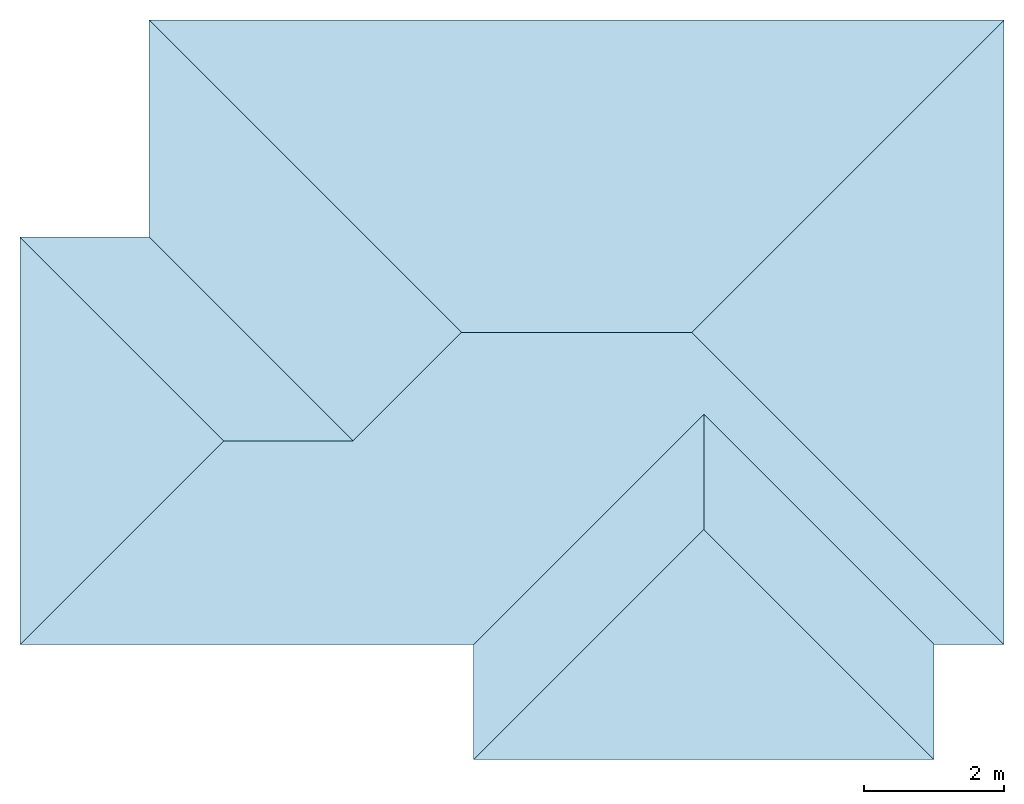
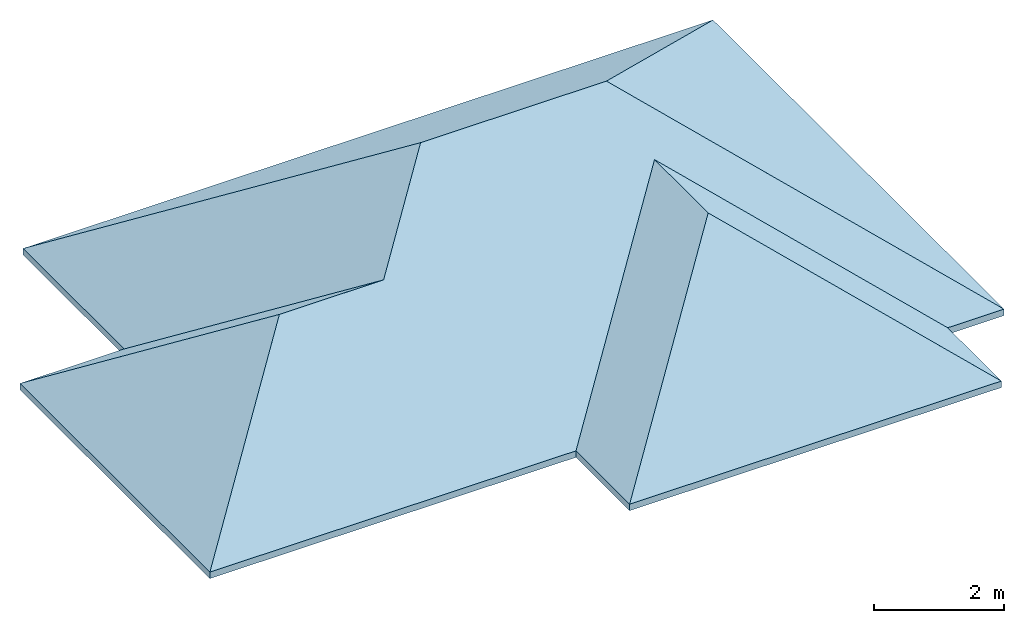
# One storey: 9 slabs, 1 element without a shape of its own.
"""IFC2X3 building model written with IfcOpenShell, lengths in centimetres."""

import ifcopenshell
import ifcopenshell.guid

model = None  # the IFC model being written
_history = None  # IfcOwnerHistory: only IFC2X3 demands one
_inside = {}  # id of a spatial element -> (the spatial element, [elements in it])
_under = {}  # id of a project, library or spatial element -> (it, [spatial elements below it])
_declared = {}  # id of a project -> (the project, [libraries it declares])
_typed = {}  # id of a type object -> (the type object, [elements of that type])
_made_of = {}  # id of a material, layer set ... -> (it, [elements and type objects made of it])


def new_model(schema):
    """Start an empty IFC model of exactly this schema.

    Asked for "IFC4X3", IfcOpenShell would pick the latest addendum, in which some entities
    have other attributes; the version numbers below select the first issue.
    IFC2X3 requires an IfcOwnerHistory on every rooted entity: one is made here for all.
    """
    global model, _history
    if schema == "IFC4X3":
        model = ifcopenshell.file(schema_version=(4, 3, 0, 0))
    else:
        model = ifcopenshell.file(schema=schema)
    _inside.clear()
    _under.clear()
    _declared.clear()
    _typed.clear()
    _made_of.clear()
    _history = None
    if model.schema == "IFC2X3":
        org = make("IfcOrganization", Name="unknown")
        user = make(
            "IfcPersonAndOrganization",
            ThePerson=make("IfcPerson", FamilyName="unknown"),
            TheOrganization=org,
        )
        app = make(
            "IfcApplication",
            ApplicationDeveloper=org,
            Version="unknown",
            ApplicationFullName="unknown",
            ApplicationIdentifier="unknown",
        )
        _history = make(
            "IfcOwnerHistory",
            OwningUser=user,
            OwningApplication=app,
            ChangeAction="ADDED",
            CreationDate=0,
        )
    return model


def make(cls, **values):
    """One entity of the class cls with the attributes given. An attribute that is None is left unset."""
    return model.create_entity(
        cls, **{name: value for name, value in values.items() if value is not None}
    )


def entity(cls, *values):
    """Any entity or typed value of the class cls, its attributes in the order of the schema. None: left unset."""
    e = model.create_entity(cls)
    for i, value in enumerate(values):
        if value is not None:
            e[i] = value
    return e


def rooted(cls, **values):
    """An entity with a GlobalId (a new one), such as an element, a storey or a relation."""
    return make(cls, GlobalId=ifcopenshell.guid.new(), OwnerHistory=_history, **values)


def si_unit(unit_type, name, prefix=None):
    """IfcSIUnit, for example si_unit("LENGTHUNIT", "METRE", prefix="MILLI")."""
    return make("IfcSIUnit", UnitType=unit_type, Prefix=prefix, Name=name)


def converted_unit(unit_type, name, factor, base, dimensions=None, offset=None):
    """IfcConversionBasedUnit, such as the inch: factor (a typed value) times the base unit."""
    return make(
        "IfcConversionBasedUnit"
        if offset is None
        else "IfcConversionBasedUnitWithOffset",
        ConversionOffset=offset,
        Dimensions=None
        if dimensions is None
        else entity("IfcDimensionalExponents", *dimensions),
        UnitType=unit_type,
        Name=name,
        ConversionFactor=make(
            "IfcMeasureWithUnit", ValueComponent=factor, UnitComponent=base
        ),
    )


def derived_unit(unit_type, elements):
    """IfcDerivedUnit: a product of units, each with its exponent."""
    return make(
        "IfcDerivedUnit",
        Elements=[
            make("IfcDerivedUnitElement", Unit=unit, Exponent=power)
            for unit, power in elements
        ],
        UnitType=unit_type,
    )


def assignment(units):
    """IfcUnitAssignment: the units of a project."""
    return None if units is None else make("IfcUnitAssignment", Units=units)


def point(xyz):
    """IfcCartesianPoint."""
    return None if xyz is None else make("IfcCartesianPoint", Coordinates=xyz)


def direction(xyz):
    """IfcDirection."""
    return None if xyz is None else make("IfcDirection", DirectionRatios=xyz)


def frame(location, z_axis=None, x_axis=None):
    """IfcAxis2Placement3D, a coordinate frame: its origin and axes. An axis left out is left unset."""
    return make(
        "IfcAxis2Placement3D",
        Location=point(location),
        Axis=direction(z_axis),
        RefDirection=direction(x_axis),
    )


def origin():
    """The frame at (0, 0, 0) with its axes left unset."""
    return frame((0.0, 0.0, 0.0))


def place(relative_to, where):
    """IfcLocalPlacement: puts the frame where relative to a parent placement (None: the world)."""
    return make(
        "IfcLocalPlacement", PlacementRelTo=relative_to, RelativePlacement=where
    )


def context(
    kind, dimensions, precision=None, world=None, true_north=None, identifier=None
):
    """IfcGeometricRepresentationContext, for example the 3D "Model" context."""
    return make(
        "IfcGeometricRepresentationContext",
        ContextIdentifier=identifier,
        ContextType=kind,
        CoordinateSpaceDimension=dimensions,
        Precision=precision,
        WorldCoordinateSystem=world,
        TrueNorth=true_north,
    )


def subcontext(parent, identifier, kind, view, scale=None):
    """IfcGeometricRepresentationSubContext, for example "Body" below "Model"."""
    return make(
        "IfcGeometricRepresentationSubContext",
        ContextIdentifier=identifier,
        ContextType=kind,
        ParentContext=parent,
        TargetScale=scale,
        TargetView=view,
    )


def project(units=None, contexts=None):
    """IfcProject with its units and contexts."""
    return rooted(
        "IfcProject",
        Name="project",
        RepresentationContexts=contexts,
        UnitsInContext=assignment(units),
    )


def spatial(cls, under=None, at=None, **own):
    """A site, building, storey or space (cls), placed at a placement, below another one or the project."""
    s = rooted(cls, ObjectPlacement=at, **own)
    if under is not None:
        _under.setdefault(under.id(), (under, []))[1].append(s)
    return s


def polyline(points):
    """IfcPolyline through the points."""
    return make("IfcPolyline", Points=[point(p) for p in points])


def outline(outer, holes=None, kind="AREA"):
    """IfcArbitraryClosedProfileDef: a profile drawn as a closed curve; with holes, ...WithVoids."""
    if holes is None:
        return make("IfcArbitraryClosedProfileDef", ProfileType=kind, OuterCurve=outer)
    return make(
        "IfcArbitraryProfileDefWithVoids",
        ProfileType=kind,
        OuterCurve=outer,
        InnerCurves=holes,
    )


def extrude(swept, where, along, depth):
    """IfcExtrudedAreaSolid: the profile swept, set in the frame where, extruded along a direction by depth."""
    return make(
        "IfcExtrudedAreaSolid",
        SweptArea=swept,
        Position=where,
        ExtrudedDirection=direction(along),
        Depth=depth,
    )


def shape(context_of_items, identifier, shape_type, items):
    """IfcShapeRepresentation: the items that make up one representation, for example the "Body"."""
    return make(
        "IfcShapeRepresentation",
        ContextOfItems=context_of_items,
        RepresentationIdentifier=identifier,
        RepresentationType=shape_type,
        Items=items,
    )


def material(Name=None, Category=None):
    """IfcMaterial."""
    return make("IfcMaterial", Name=Name, Category=Category)


def layer(
    of_material, thickness, ventilated=None, Name=None, Category=None, Priority=None
):
    """IfcMaterialLayer: one layer of a wall or slab, of a material (None: an air gap)."""
    return make(
        "IfcMaterialLayer",
        Material=of_material,
        LayerThickness=thickness,
        IsVentilated=ventilated,
        Name=Name,
        Category=Category,
        Priority=Priority,
    )


def layer_set(layers, Name=None):
    """IfcMaterialLayerSet."""
    return make("IfcMaterialLayerSet", MaterialLayers=layers, LayerSetName=Name)


def made_of(thing, what):
    """Note that an element or type object is made of a material, layer set ...; save() writes the relation."""
    if what is not None:
        _made_of.setdefault(what.id(), (what, []))[1].append(thing)
    return thing


def type_object(cls, material=None, **own):
    """A type object (cls), such as IfcWallType, which elements share."""
    return made_of(rooted(cls, **own), material)


def element(
    cls,
    number,
    at=None,
    inside=None,
    cuts=None,
    type_object=None,
    material=None,
    context=None,
    identifier="Body",
    shape_type=None,
    held_by="IfcProductDefinitionShape",
    body=None,
    shapes=None,
    **own,
):
    """One element of the class cls, such as IfcWall. Its Tag is "e" and its number.

    at: its placement. inside: the storey or other place that contains it. cuts: it is an
    opening in that element (IfcRelVoidsElement). A single representation is given by context,
    identifier, shape_type and body (its items); several are given by shapes. held_by: the class
    of the entity that holds the representations. save() writes the other relations.
    """
    e = rooted(cls, Tag="e%d" % number, ObjectPlacement=at, **own)
    if body is not None:
        shapes = [shape(context, identifier, shape_type, body)]
    if shapes is not None:
        e.Representation = make(held_by, Representations=shapes)
    if inside is not None:
        _inside.setdefault(inside.id(), (inside, []))[1].append(e)
    if cuts is not None:
        rooted(
            "IfcRelVoidsElement", RelatingBuildingElement=cuts, RelatedOpeningElement=e
        )
    if type_object is not None:
        _typed.setdefault(type_object.id(), (type_object, []))[1].append(e)
    return made_of(e, material)


def aggregate(whole, parts):
    """IfcRelAggregates: a whole, such as a stair, and the parts it consists of."""
    return rooted("IfcRelAggregates", RelatingObject=whole, RelatedObjects=parts)


def save(model, path):
    """Write the relations noted so far, then the file.

    IfcRelAggregates (storeys below a building ...), IfcRelContainedInSpatialStructure (elements
    in a storey), IfcRelDefinesByType, IfcRelAssociatesMaterial and IfcRelDeclares: one each for
    every whole, place, type object, material and project.
    """
    for whole, parts in _under.values():
        aggregate(whole, parts)
    for where, things in _inside.values():
        rooted(
            "IfcRelContainedInSpatialStructure",
            RelatedElements=things,
            RelatingStructure=where,
        )
    for kind, things in _typed.values():
        rooted("IfcRelDefinesByType", RelatedObjects=things, RelatingType=kind)
    for what, things in _made_of.values():
        rooted("IfcRelAssociatesMaterial", RelatedObjects=things, RelatingMaterial=what)
    for by, libraries in _declared.values():
        rooted("IfcRelDeclares", RelatingContext=by, RelatedDefinitions=libraries)
    model.write(path)


model = new_model("IFC2X3")

# Units and contexts
model_context = context("Model", 3, precision=0.001, world=origin(), true_north=direction((6.123031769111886e-17, 1.0)))
body_context = subcontext(model_context, "Body", "Model", "MODEL_VIEW")
ifc_project = project(units=[si_unit("LENGTHUNIT", "METRE", prefix="CENTI"), si_unit("AREAUNIT", "SQUARE_METRE"), si_unit("VOLUMEUNIT", "CUBIC_METRE"), converted_unit("PLANEANGLEUNIT", "DEGREE", entity("IfcRatioMeasure", 0.017453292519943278), si_unit("PLANEANGLEUNIT", "RADIAN"), dimensions=[0, 0, 0, 0, 0, 0, 0]), si_unit("MASSUNIT", "GRAM", prefix="KILO"), derived_unit("MASSDENSITYUNIT", [(si_unit("MASSUNIT", "GRAM", prefix="KILO"), 1), (si_unit("LENGTHUNIT", "METRE"), -3)]), derived_unit("MOMENTOFINERTIAUNIT", [(si_unit("LENGTHUNIT", "METRE"), 4)]), si_unit("TIMEUNIT", "SECOND"), si_unit("FREQUENCYUNIT", "HERTZ"), si_unit("THERMODYNAMICTEMPERATUREUNIT", "DEGREE_CELSIUS"), derived_unit("THERMALTRANSMITTANCEUNIT", [(si_unit("MASSUNIT", "GRAM", prefix="KILO"), 1), (si_unit("THERMODYNAMICTEMPERATUREUNIT", "KELVIN"), -1), (si_unit("TIMEUNIT", "SECOND"), -3)]), derived_unit("VOLUMETRICFLOWRATEUNIT", [(si_unit("LENGTHUNIT", "METRE"), 3), (si_unit("TIMEUNIT", "SECOND"), -1)]), derived_unit("MASSFLOWRATEUNIT", [(si_unit("MASSUNIT", "GRAM", prefix="KILO"), 1), (si_unit("TIMEUNIT", "SECOND"), -1)]), derived_unit("ROTATIONALFREQUENCYUNIT", [(si_unit("TIMEUNIT", "SECOND"), -1)]), si_unit("ELECTRICCURRENTUNIT", "AMPERE"), si_unit("ELECTRICVOLTAGEUNIT", "VOLT"), si_unit("POWERUNIT", "WATT"), si_unit("FORCEUNIT", "NEWTON", prefix="KILO"), si_unit("ILLUMINANCEUNIT", "LUX"), si_unit("LUMINOUSFLUXUNIT", "LUMEN"), si_unit("LUMINOUSINTENSITYUNIT", "CANDELA"), derived_unit("USERDEFINED", [(si_unit("MASSUNIT", "GRAM", prefix="KILO"), -1), (si_unit("LENGTHUNIT", "METRE"), -2), (si_unit("TIMEUNIT", "SECOND"), 3), (si_unit("LUMINOUSFLUXUNIT", "LUMEN"), 1)]), derived_unit("SOUNDPOWERUNIT", [(si_unit("MASSUNIT", "GRAM", prefix="KILO"), 1), (si_unit("LENGTHUNIT", "METRE"), 2), (si_unit("TIMEUNIT", "SECOND"), -3)]), derived_unit("SOUNDPRESSUREUNIT", [(si_unit("MASSUNIT", "GRAM", prefix="KILO"), 1), (si_unit("LENGTHUNIT", "METRE"), -1), (si_unit("TIMEUNIT", "SECOND"), -2)]), derived_unit("LINEARVELOCITYUNIT", [(si_unit("LENGTHUNIT", "METRE"), 1), (si_unit("TIMEUNIT", "SECOND"), -1)]), si_unit("PRESSUREUNIT", "PASCAL"), derived_unit("USERDEFINED", [(si_unit("LENGTHUNIT", "METRE"), -2), (si_unit("MASSUNIT", "GRAM", prefix="KILO"), 1), (si_unit("TIMEUNIT", "SECOND"), -2)]), derived_unit("LINEARFORCEUNIT", [(si_unit("MASSUNIT", "GRAM", prefix="KILO"), 1), (si_unit("LENGTHUNIT", "METRE"), 1), (si_unit("TIMEUNIT", "SECOND"), -2), (si_unit("LENGTHUNIT", "METRE"), -1)]), derived_unit("PLANARFORCEUNIT", [(si_unit("MASSUNIT", "GRAM", prefix="KILO"), 1), (si_unit("LENGTHUNIT", "METRE"), 1), (si_unit("TIMEUNIT", "SECOND"), -2), (si_unit("LENGTHUNIT", "METRE"), -2)])], contexts=[model_context])

# Site, building, storey
site_placement = place(None, origin())
site = spatial("IfcSite", under=ifc_project, at=site_placement, Name="Default", CompositionType="ELEMENT")
building_placement = place(site_placement, origin())
building = spatial("IfcBuilding", under=site, at=building_placement, CompositionType="ELEMENT")
storey_placement = place(building_placement, frame((0.0, 0.0, 270.0)))
storey = spatial("IfcBuildingStorey", under=building, at=storey_placement, Name="x_Arase", CompositionType="ELEMENT", Elevation=270.0)

# Roof, slabs
ifc_material = material(Name="Ardoise")
ifc_layer = layer(ifc_material, 10.0)
ifc_layer_set = layer_set([ifc_layer], Name="Toit de base:Toit ardoise - 100 mm")
roof_placement = place(storey_placement, frame((-1653.8253630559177, -126.39570391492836, 0.0)))
roof = element("IfcRoof", 1, at=roof_placement, inside=storey, material=ifc_layer_set, Name="Toit de base:Toit ardoise - 100 mm", ObjectType="Toit de base:Toit ardoise - 100 mm", ShapeType="NOTDEFINED")
slab_type_1 = type_object("IfcSlabType", Name="Toit de base:Toit ardoise - 100 mm", PredefinedType="ROOF")
slab_1_placement = place(roof_placement, origin())
slab_1 = element("IfcSlab", 2, at=slab_1_placement, type_object=slab_type_1, material=ifc_layer_set, Name="Toit de base:Toit ardoise - 100 mm", ObjectType="Toit de base:Toit ardoise - 100 mm", PredefinedType="ROOF", context=body_context, shape_type="SweptSolid", body=[
    extrude(outline(polyline([(612.5000000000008, 273.1483142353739), (-612.4999999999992, 273.1483142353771), (-165.0, -273.1483142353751), (165.0, -273.1483142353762), (612.5000000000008, 273.1483142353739)])), frame((797.5000000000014, 836.2500000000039, 156.67143667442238), z_axis=(0.0, 0.5735764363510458, 0.819152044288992), x_axis=(1.0, 0.0, 0.0)), (0.0, -0.5735764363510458, 0.819152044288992), 12.207745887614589),
])
slab_type_2 = type_object("IfcSlabType", Name="Toit de base:Toit ardoise - 100 mm", PredefinedType="ROOF")
slab_2_placement = place(roof_placement, origin())
slab_2 = element("IfcSlab", 3, at=slab_2_placement, type_object=slab_type_2, material=ifc_layer_set, Name="Toit de base:Toit ardoise - 100 mm", ObjectType="Toit de base:Toit ardoise - 100 mm", PredefinedType="ROOF", context=body_context, shape_type="SweptSolid", body=[
    extrude(outline(polyline([(273.1483142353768, 447.4999999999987), (-273.14831423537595, 0.0), (273.148314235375, -447.49999999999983), (273.1483142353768, 447.4999999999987)])), frame((1186.250000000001, 612.5000000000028, 156.67143667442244), z_axis=(0.573576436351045, 0.0, 0.8191520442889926), x_axis=(0.8191520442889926, 0.0, -0.573576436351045)), (-0.573576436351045, 0.0, 0.8191520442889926), 12.20774588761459),
])
slab_type_3 = type_object("IfcSlabType", Name="Toit de base:Toit ardoise - 100 mm", PredefinedType="ROOF")
slab_3_placement = place(roof_placement, origin())
slab_3 = element("IfcSlab", 4, at=slab_3_placement, type_object=slab_type_3, material=ifc_layer_set, Name="Toit de base:Toit ardoise - 100 mm", ObjectType="Toit de base:Toit ardoise - 100 mm", PredefinedType="ROOF", context=body_context, shape_type="SweptSolid", body=[
    extrude(outline(polyline([(-705.0, -273.1483142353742), (-55.0, -273.14831423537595), (275.0, 129.70730005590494), (605.0, -273.14831423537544), (705.0, -273.1483142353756), (257.4999999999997, 273.1483142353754), (-72.49999999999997, 273.1483142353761), (-228.0, 83.3178656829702), (-413.0, 83.31786568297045), (-705.0, -273.1483142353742)])), frame((705.0, 388.750000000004, 156.67143667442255), z_axis=(0.0, -0.5735764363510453, 0.8191520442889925), x_axis=(1.0, 0.0, 0.0)), (0.0, 0.5735764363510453, 0.8191520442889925), 12.207745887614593),
])
slab_type_4 = type_object("IfcSlabType", Name="Toit de base:Toit ardoise - 100 mm", PredefinedType="ROOF")
slab_4_placement = place(roof_placement, origin())
slab_4 = element("IfcSlab", 5, at=slab_4_placement, type_object=slab_type_4, material=ifc_layer_set, Name="Toit de base:Toit ardoise - 100 mm", ObjectType="Toit de base:Toit ardoise - 100 mm", PredefinedType="ROOF", context=body_context, shape_type="SweptSolid", body=[
    extrude(outline(polyline([(201.4278071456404, -247.5000000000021), (201.42780714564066, -82.49999999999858), (-201.4278071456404, 247.5000000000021), (-201.42780714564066, 82.50000000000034), (201.4278071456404, -247.5000000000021)])), frame((1145.0, 247.500000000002, 115.53424380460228), z_axis=(0.573576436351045, 0.0, 0.8191520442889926), x_axis=(0.8191520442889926, 0.0, -0.573576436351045)), (-0.573576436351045, 0.0, 0.8191520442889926), 12.20774588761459),
])
slab_type_5 = type_object("IfcSlabType", Name="Toit de base:Toit ardoise - 100 mm", PredefinedType="ROOF")
slab_5_placement = place(roof_placement, origin())
slab_5 = element("IfcSlab", 6, at=slab_5_placement, type_object=slab_type_5, material=ifc_layer_set, Name="Toit de base:Toit ardoise - 100 mm", ObjectType="Toit de base:Toit ardoise - 100 mm", PredefinedType="ROOF", context=body_context, shape_type="SweptSolid", body=[
    extrude(outline(polyline([(-330.0, -201.42780714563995), (330.0, -201.42780714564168), (0.0, 201.42780714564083), (-330.0, -201.42780714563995)])), frame((980.0, 165.0, 115.53424380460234), z_axis=(0.0, -0.5735764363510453, 0.8191520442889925), x_axis=(1.0, 0.0, 0.0)), (0.0, 0.5735764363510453, 0.8191520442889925), 12.207745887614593),
])
slab_type_6 = type_object("IfcSlabType", Name="Toit de base:Toit ardoise - 100 mm", PredefinedType="ROOF")
slab_6_placement = place(roof_placement, origin())
slab_6 = element("IfcSlab", 7, at=slab_6_placement, type_object=slab_type_6, material=ifc_layer_set, Name="Toit de base:Toit ardoise - 100 mm", ObjectType="Toit de base:Toit ardoise - 100 mm", PredefinedType="ROOF", context=body_context, shape_type="SweptSolid", body=[
    extrude(outline(polyline([(-201.42780714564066, -82.49999999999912), (-201.42780714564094, -247.50000000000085), (201.42780714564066, 82.49999999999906), (201.42780714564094, 247.50000000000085), (-201.42780714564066, -82.49999999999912)])), frame((815.0, 247.50000000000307, 115.53424380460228), z_axis=(-0.5735764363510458, 0.0, 0.819152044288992), x_axis=(0.819152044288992, 0.0, 0.5735764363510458)), (0.5735764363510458, 0.0, 0.819152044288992), 12.207745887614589),
])
slab_type_7 = type_object("IfcSlabType", Name="Toit de base:Toit ardoise - 100 mm", PredefinedType="ROOF")
slab_7_placement = place(roof_placement, origin())
slab_7 = element("IfcSlab", 8, at=slab_7_placement, type_object=slab_type_7, material=ifc_layer_set, Name="Toit de base:Toit ardoise - 100 mm", ObjectType="Toit de base:Toit ardoise - 100 mm", PredefinedType="ROOF", context=body_context, shape_type="SweptSolid", body=[
    extrude(outline(polyline([(-178.23308995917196, 292.0), (-178.233089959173, -292.0), (178.23308995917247, 0.0), (-178.23308995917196, 292.0)])), frame((146.0, 457.0, 102.23030057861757), z_axis=(-0.5735764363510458, 0.0, 0.819152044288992), x_axis=(0.819152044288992, 0.0, 0.5735764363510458)), (0.5735764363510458, 0.0, 0.819152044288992), 12.207745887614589),
])
slab_type_8 = type_object("IfcSlabType", Name="Toit de base:Toit ardoise - 100 mm", PredefinedType="ROOF")
slab_8_placement = place(roof_placement, origin())
slab_8 = element("IfcSlab", 9, at=slab_8_placement, type_object=slab_type_8, material=ifc_layer_set, Name="Toit de base:Toit ardoise - 100 mm", ObjectType="Toit de base:Toit ardoise - 100 mm", PredefinedType="ROOF", context=body_context, shape_type="SweptSolid", body=[
    extrude(outline(polyline([(-238.50000000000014, 178.23308995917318), (53.49999999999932, -178.23308995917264), (238.49999999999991, -178.23308995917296), (-53.49999999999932, 178.23308995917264), (-238.50000000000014, 178.23308995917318)])), frame((238.500000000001, 603.0, 102.23030057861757), z_axis=(0.0, 0.5735764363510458, 0.819152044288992), x_axis=(1.0, 0.0, 0.0)), (0.0, -0.5735764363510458, 0.819152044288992), 12.207745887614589),
])
slab_type_9 = type_object("IfcSlabType", Name="Toit de base:Toit ardoise - 100 mm", PredefinedType="ROOF")
slab_9_placement = place(roof_placement, origin())
slab_9 = element("IfcSlab", 10, at=slab_9_placement, type_object=slab_type_9, material=ifc_layer_set, Name="Toit de base:Toit ardoise - 100 mm", ObjectType="Toit de base:Toit ardoise - 100 mm", PredefinedType="ROOF", context=body_context, shape_type="SweptSolid", body=[
    extrude(outline(polyline([(-273.148314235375, 301.50000000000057), (-273.14831423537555, -9.499999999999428), (83.31786568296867, -301.5000000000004), (273.1483142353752, -146.0), (-273.148314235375, 301.50000000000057)])), frame((408.7500000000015, 758.5000000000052, 156.67143667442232), z_axis=(-0.5735764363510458, 0.0, 0.819152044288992), x_axis=(0.819152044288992, 0.0, 0.5735764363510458)), (0.5735764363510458, 0.0, 0.819152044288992), 12.207745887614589),
])
aggregate(roof, [slab_1, slab_2, slab_3, slab_4, slab_5, slab_6, slab_7, slab_8, slab_9])

save(model, "model.ifc")
